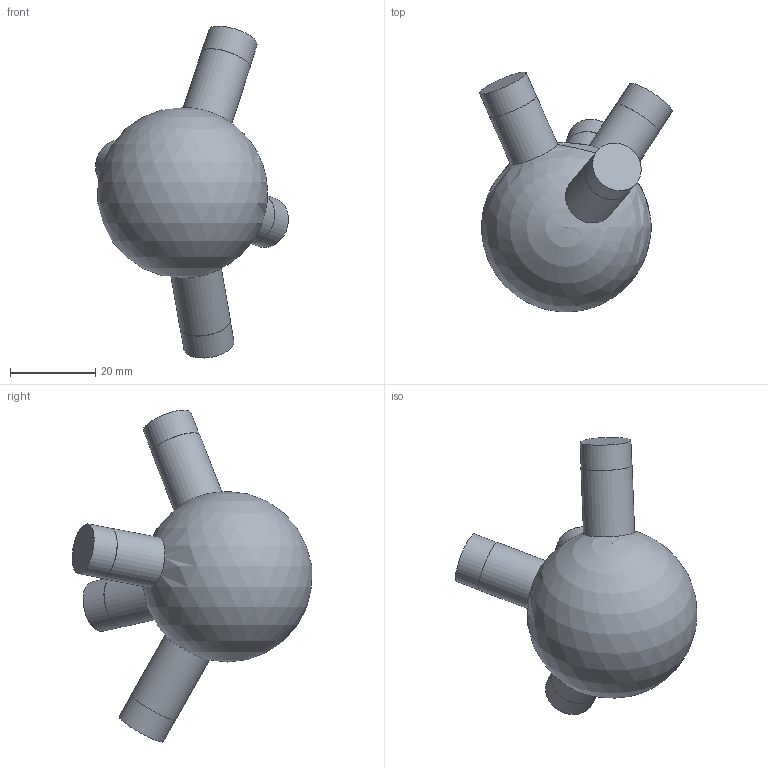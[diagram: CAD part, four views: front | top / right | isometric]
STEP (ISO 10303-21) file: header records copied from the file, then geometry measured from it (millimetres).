
FILE_DESCRIPTION(('Open CASCADE Model'),'2;1');
FILE_NAME('Open CASCADE Shape Model','2026-10-21T12:47:57',('Author'),( 'Open CASCADE'),'Open CASCADE STEP processor 7.9','Open CASCADE 7.9' ,'Unknown');
FILE_SCHEMA(('AUTOMOTIVE_DESIGN { 1 0 10303 214 1 1 1 1 }'));
Length unit declared in the file: millimetre
Products named in the file (1): Open CASCADE STEP translator 7.9 28
Bounding box: 45.21 x 56.21 x 77.83 mm (x, y, z)
Volume: 42356 mm3; surface area: 8041.9 mm2
Topology: 1 solids, 1 shells, 17 faces, 27 edges, 18 vertices
Faces by surface type: cylinder 8, plane 8, sphere 1
Full cylindrical faces by diameter (mm): 11.9 x4, 12 x4
Entity records: 976 total; most frequent: CARTESIAN_POINT 391, DIRECTION 120, ORIENTED_EDGE 48, PCURVE 48, DEFINITIONAL_REPRESENTATION 48, LINE 40, VECTOR 40, AXIS2_PLACEMENT_3D 34
